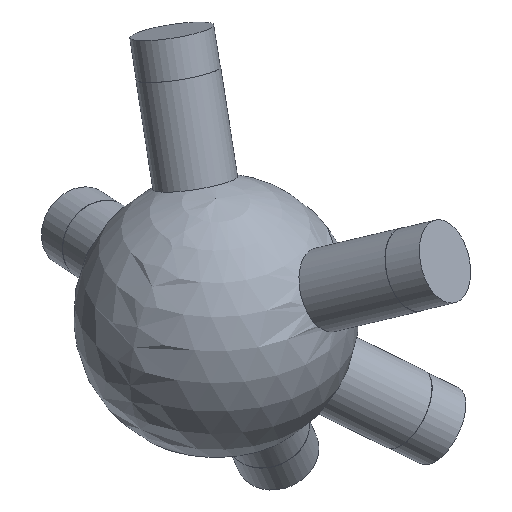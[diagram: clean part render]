
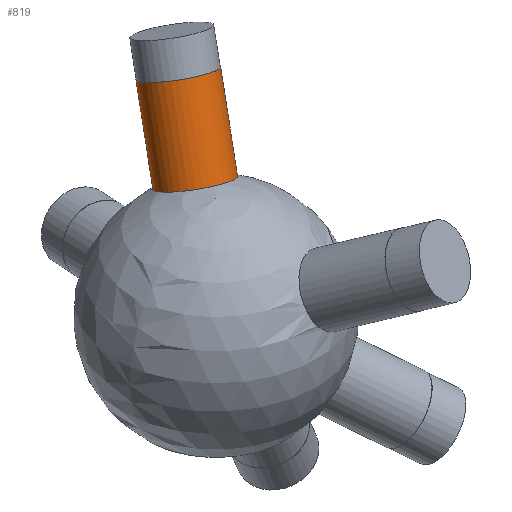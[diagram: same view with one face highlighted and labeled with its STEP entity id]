
A CAD part, isometric view. The second image highlights one B-rep face of the part: STEP entity #819.
In plain terms, the highlighted cylindrical face has radius 6 mm (diameter 12 mm), a full revolution.
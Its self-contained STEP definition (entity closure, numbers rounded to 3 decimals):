
#33 = SPHERICAL_SURFACE('',#34,20.);
#34 = AXIS2_PLACEMENT_3D('',#35,#36,#37);
#35 = CARTESIAN_POINT('',(0.,0.,0.));
#36 = DIRECTION('',(0.,0.,1.));
#37 = DIRECTION('',(1.,0.,-0.));
#434 = EDGE_CURVE('',#435,#435,#437,.T.);
#435 = VERTEX_POINT('',#436);
#436 = CARTESIAN_POINT('',(3.778,13.314,
    14.438));
#437 = SURFACE_CURVE('',#438,(#443,#540),.PCURVE_S1.);
#438 = CIRCLE('',#439,6.);
#439 = AXIS2_PLACEMENT_3D('',#440,#441,#442);
#440 = CARTESIAN_POINT('',(3.778,7.871,16.964
    ));
#441 = DIRECTION('',(0.198,0.413,0.889));
#442 = DIRECTION('',(0.,-0.907,0.421)
  );
#443 = PCURVE('',#33,#444);
#444 = DEFINITIONAL_REPRESENTATION('',(#445),#539);
#445 = B_SPLINE_CURVE_WITH_KNOTS('',8,(#446,#447,#448,#449,#450,#451,
    #452,#453,#454,#455,#456,#457,#458,#459,#460,#461,#462,#463,#464,
    #465,#466,#467,#468,#469,#470,#471,#472,#473,#474,#475,#476,#477,
    #478,#479,#480,#481,#482,#483,#484,#485,#486,#487,#488,#489,#490,
    #491,#492,#493,#494,#495,#496,#497,#498,#499,#500,#501,#502,#503,
    #504,#505,#506,#507,#508,#509,#510,#511,#512,#513,#514,#515,#516,
    #517,#518,#519,#520,#521,#522,#523,#524,#525,#526,#527,#528,#529,
    #530,#531,#532,#533,#534,#535,#536,#537,#538),.UNSPECIFIED.,.F.,.F.,
  (9,7,7,7,7,7,7,7,7,7,7,7,7,9),(3.142,3.927,
    4.614,4.915,5.197,5.461,
    5.709,5.941,6.159,6.363,
    6.746,7.415,8.42,9.425),
  .UNSPECIFIED.);
#446 = CARTESIAN_POINT('',(1.294,0.807));
#447 = CARTESIAN_POINT('',(1.335,0.814));
#448 = CARTESIAN_POINT('',(1.376,0.824));
#449 = CARTESIAN_POINT('',(1.416,0.836));
#450 = CARTESIAN_POINT('',(1.456,0.849));
#451 = CARTESIAN_POINT('',(1.494,0.865));
#452 = CARTESIAN_POINT('',(1.531,0.882));
#453 = CARTESIAN_POINT('',(1.568,0.902));
#454 = CARTESIAN_POINT('',(1.633,0.94));
#455 = CARTESIAN_POINT('',(1.662,0.96));
#456 = CARTESIAN_POINT('',(1.69,0.98));
#457 = CARTESIAN_POINT('',(1.716,1.002));
#458 = CARTESIAN_POINT('',(1.741,1.024));
#459 = CARTESIAN_POINT('',(1.763,1.047));
#460 = CARTESIAN_POINT('',(1.783,1.072));
#461 = CARTESIAN_POINT('',(1.807,1.107));
#462 = CARTESIAN_POINT('',(1.814,1.118));
#463 = CARTESIAN_POINT('',(1.82,1.129));
#464 = CARTESIAN_POINT('',(1.825,1.14));
#465 = CARTESIAN_POINT('',(1.83,1.151));
#466 = CARTESIAN_POINT('',(1.833,1.162));
#467 = CARTESIAN_POINT('',(1.836,1.173));
#468 = CARTESIAN_POINT('',(1.839,1.195));
#469 = CARTESIAN_POINT('',(1.839,1.206));
#470 = CARTESIAN_POINT('',(1.838,1.216));
#471 = CARTESIAN_POINT('',(1.836,1.227));
#472 = CARTESIAN_POINT('',(1.833,1.237));
#473 = CARTESIAN_POINT('',(1.828,1.248));
#474 = CARTESIAN_POINT('',(1.821,1.258));
#475 = CARTESIAN_POINT('',(1.805,1.278));
#476 = CARTESIAN_POINT('',(1.795,1.288));
#477 = CARTESIAN_POINT('',(1.783,1.297));
#478 = CARTESIAN_POINT('',(1.769,1.306));
#479 = CARTESIAN_POINT('',(1.753,1.315));
#480 = CARTESIAN_POINT('',(1.734,1.324));
#481 = CARTESIAN_POINT('',(1.712,1.332));
#482 = CARTESIAN_POINT('',(1.664,1.348));
#483 = CARTESIAN_POINT('',(1.637,1.355));
#484 = CARTESIAN_POINT('',(1.608,1.362));
#485 = CARTESIAN_POINT('',(1.575,1.369));
#486 = CARTESIAN_POINT('',(1.539,1.375));
#487 = CARTESIAN_POINT('',(1.499,1.38));
#488 = CARTESIAN_POINT('',(1.456,1.385));
#489 = CARTESIAN_POINT('',(1.366,1.392));
#490 = CARTESIAN_POINT('',(1.32,1.396));
#491 = CARTESIAN_POINT('',(1.271,1.398));
#492 = CARTESIAN_POINT('',(1.221,1.4));
#493 = CARTESIAN_POINT('',(1.169,1.401));
#494 = CARTESIAN_POINT('',(1.118,1.401));
#495 = CARTESIAN_POINT('',(1.066,1.4));
#496 = CARTESIAN_POINT('',(0.969,1.397));
#497 = CARTESIAN_POINT('',(0.923,1.395));
#498 = CARTESIAN_POINT('',(0.879,1.393));
#499 = CARTESIAN_POINT('',(0.836,1.389));
#500 = CARTESIAN_POINT('',(0.797,1.386));
#501 = CARTESIAN_POINT('',(0.76,1.381));
#502 = CARTESIAN_POINT('',(0.725,1.377));
#503 = CARTESIAN_POINT('',(0.664,1.366));
#504 = CARTESIAN_POINT('',(0.636,1.361));
#505 = CARTESIAN_POINT('',(0.611,1.356));
#506 = CARTESIAN_POINT('',(0.588,1.35));
#507 = CARTESIAN_POINT('',(0.567,1.344));
#508 = CARTESIAN_POINT('',(0.548,1.337));
#509 = CARTESIAN_POINT('',(0.531,1.331));
#510 = CARTESIAN_POINT('',(0.487,1.312));
#511 = CARTESIAN_POINT('',(0.464,1.299));
#512 = CARTESIAN_POINT('',(0.446,1.285));
#513 = CARTESIAN_POINT('',(0.432,1.271));
#514 = CARTESIAN_POINT('',(0.422,1.257));
#515 = CARTESIAN_POINT('',(0.415,1.243));
#516 = CARTESIAN_POINT('',(0.411,1.229));
#517 = CARTESIAN_POINT('',(0.406,1.189));
#518 = CARTESIAN_POINT('',(0.41,1.164));
#519 = CARTESIAN_POINT('',(0.419,1.139));
#520 = CARTESIAN_POINT('',(0.432,1.114));
#521 = CARTESIAN_POINT('',(0.448,1.09));
#522 = CARTESIAN_POINT('',(0.467,1.067));
#523 = CARTESIAN_POINT('',(0.488,1.044));
#524 = CARTESIAN_POINT('',(0.546,0.989));
#525 = CARTESIAN_POINT('',(0.585,0.958));
#526 = CARTESIAN_POINT('',(0.628,0.929));
#527 = CARTESIAN_POINT('',(0.673,0.902));
#528 = CARTESIAN_POINT('',(0.72,0.878));
#529 = CARTESIAN_POINT('',(0.769,0.858));
#530 = CARTESIAN_POINT('',(0.819,0.84));
#531 = CARTESIAN_POINT('',(0.922,0.811));
#532 = CARTESIAN_POINT('',(0.974,0.8));
#533 = CARTESIAN_POINT('',(1.027,0.792));
#534 = CARTESIAN_POINT('',(1.081,0.788));
#535 = CARTESIAN_POINT('',(1.135,0.788));
#536 = CARTESIAN_POINT('',(1.188,0.79));
#537 = CARTESIAN_POINT('',(1.242,0.797));
#538 = CARTESIAN_POINT('',(1.294,0.807));
#539 = ( GEOMETRIC_REPRESENTATION_CONTEXT(2) 
PARAMETRIC_REPRESENTATION_CONTEXT() REPRESENTATION_CONTEXT('2D SPACE',''
  ) );
#540 = PCURVE('',#541,#546);
#541 = CYLINDRICAL_SURFACE('',#542,6.);
#542 = AXIS2_PLACEMENT_3D('',#543,#544,#545);
#543 = CARTESIAN_POINT('',(0.,0.,0.));
#544 = DIRECTION('',(0.198,0.413,0.889));
#545 = DIRECTION('',(0.,0.907,-0.421)
  );
#546 = DEFINITIONAL_REPRESENTATION('',(#547),#551);
#547 = LINE('',#548,#549);
#548 = CARTESIAN_POINT('',(-3.142,19.079));
#549 = VECTOR('',#550,1.);
#550 = DIRECTION('',(1.,0.));
#551 = ( GEOMETRIC_REPRESENTATION_CONTEXT(2) 
PARAMETRIC_REPRESENTATION_CONTEXT() REPRESENTATION_CONTEXT('2D SPACE',''
  ) );
#819 = ADVANCED_FACE('',(#820),#541,.T.);
#820 = FACE_BOUND('',#821,.T.);
#821 = EDGE_LOOP('',(#822,#845,#872,#873));
#822 = ORIENTED_EDGE('',*,*,#823,.T.);
#823 = EDGE_CURVE('',#435,#824,#826,.T.);
#824 = VERTEX_POINT('',#825);
#825 = CARTESIAN_POINT('',(6.891,19.799,
    28.414));
#826 = SEAM_CURVE('',#827,(#831,#838),.PCURVE_S1.);
#827 = LINE('',#828,#829);
#828 = CARTESIAN_POINT('',(0.,5.443,
    -2.525));
#829 = VECTOR('',#830,1.);
#830 = DIRECTION('',(0.198,0.413,0.889));
#831 = PCURVE('',#541,#832);
#832 = DEFINITIONAL_REPRESENTATION('',(#833),#837);
#833 = LINE('',#834,#835);
#834 = CARTESIAN_POINT('',(6.283,-0.));
#835 = VECTOR('',#836,1.);
#836 = DIRECTION('',(0.,1.));
#837 = ( GEOMETRIC_REPRESENTATION_CONTEXT(2) 
PARAMETRIC_REPRESENTATION_CONTEXT() REPRESENTATION_CONTEXT('2D SPACE',''
  ) );
#838 = PCURVE('',#541,#839);
#839 = DEFINITIONAL_REPRESENTATION('',(#840),#844);
#840 = LINE('',#841,#842);
#841 = CARTESIAN_POINT('',(0.,-0.));
#842 = VECTOR('',#843,1.);
#843 = DIRECTION('',(0.,1.));
#844 = ( GEOMETRIC_REPRESENTATION_CONTEXT(2) 
PARAMETRIC_REPRESENTATION_CONTEXT() REPRESENTATION_CONTEXT('2D SPACE',''
  ) );
#845 = ORIENTED_EDGE('',*,*,#846,.F.);
#846 = EDGE_CURVE('',#824,#824,#847,.T.);
#847 = SURFACE_CURVE('',#848,(#853,#860),.PCURVE_S1.);
#848 = CIRCLE('',#849,6.);
#849 = AXIS2_PLACEMENT_3D('',#850,#851,#852);
#850 = CARTESIAN_POINT('',(6.891,14.357,
    30.94));
#851 = DIRECTION('',(0.198,0.413,0.889));
#852 = DIRECTION('',(0.,0.907,-0.421)
  );
#853 = PCURVE('',#541,#854);
#854 = DEFINITIONAL_REPRESENTATION('',(#855),#859);
#855 = LINE('',#856,#857);
#856 = CARTESIAN_POINT('',(0.,34.798));
#857 = VECTOR('',#858,1.);
#858 = DIRECTION('',(1.,0.));
#859 = ( GEOMETRIC_REPRESENTATION_CONTEXT(2) 
PARAMETRIC_REPRESENTATION_CONTEXT() REPRESENTATION_CONTEXT('2D SPACE',''
  ) );
#860 = PCURVE('',#861,#866);
#861 = PLANE('',#862);
#862 = AXIS2_PLACEMENT_3D('',#863,#864,#865);
#863 = CARTESIAN_POINT('',(6.891,14.357,
    30.94));
#864 = DIRECTION('',(0.198,0.413,0.889));
#865 = DIRECTION('',(0.,0.907,-0.421)
  );
#866 = DEFINITIONAL_REPRESENTATION('',(#867),#871);
#867 = CIRCLE('',#868,6.);
#868 = AXIS2_PLACEMENT_2D('',#869,#870);
#869 = CARTESIAN_POINT('',(0.,0.));
#870 = DIRECTION('',(1.,0.));
#871 = ( GEOMETRIC_REPRESENTATION_CONTEXT(2) 
PARAMETRIC_REPRESENTATION_CONTEXT() REPRESENTATION_CONTEXT('2D SPACE',''
  ) );
#872 = ORIENTED_EDGE('',*,*,#823,.F.);
#873 = ORIENTED_EDGE('',*,*,#434,.T.);
